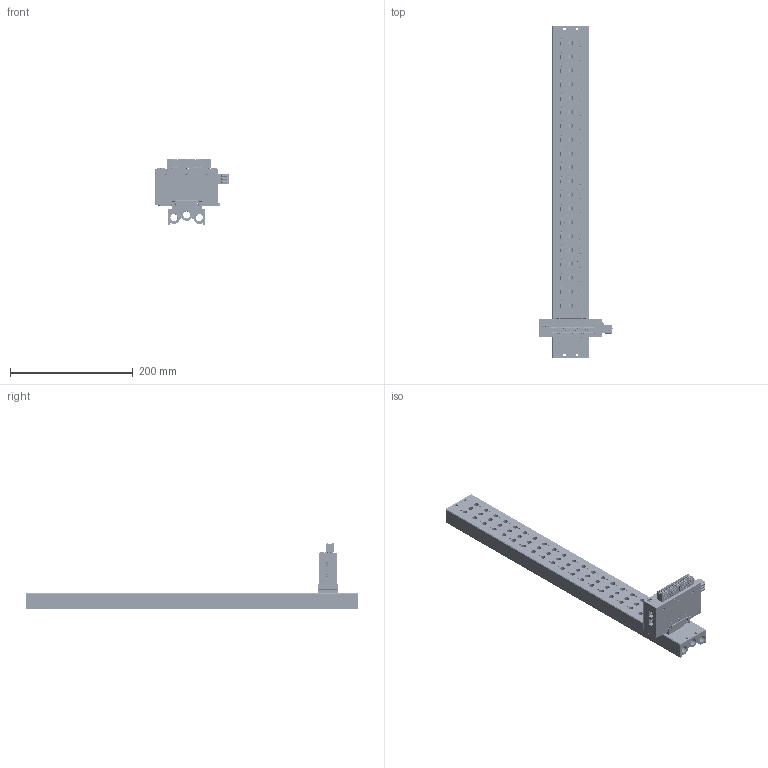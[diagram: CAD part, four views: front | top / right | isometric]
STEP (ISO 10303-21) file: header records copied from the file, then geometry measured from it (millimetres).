
FILE_DESCRIPTION(/* description */ (''),/* implementation_level */ '2;1');
FILE_NAME(/* name */ '',/* time_stamp */ '2025-10-09T16:39:53+08:00',/* author */ (''),/* organization */ (''),/* preprocessor_version */ 'ST-DEVELOPER v14',/* originating_system */ 'SIEMENS PLM Software NX 8.0',/* authorisation */ '');
FILE_SCHEMA (('AP203_CONFIGURATION_CONTROLLED_3D_DESIGN_OF_MECHANICAL_PARTS_AND_ASSEMBLIES_MIM_LF { 1 0 10303 403 2 1 2}'));
Products named in the file (1): DELL3E5857E9ud0g
Bounding box: 119.8 x 541 x 108.48 mm (x, y, z)
Volume: 684010.6 mm3; surface area: 233590.9 mm2
Topology: 2 solids, 228 shells, 9873 faces, 26114 edges, 16995 vertices
Faces by surface type: plane 6421, cylinder 2335, torus 336, bspline 328, cone 269, sphere 95, extrusion 89
Full cylindrical faces by diameter (mm): 0.18 x2, 2.5 x45, 3.05 x40, 3.3 x3, 3.5 x4, 4 x3, 4.5 x4, 6 x4, 8 x60, 11.492 x1, 11.5 x5, 11.8 x6
Entity records: 325197 total; most frequent: CARTESIAN_POINT 82487, ORIENTED_EDGE 50898, DIRECTION 48594, EDGE_CURVE 25449, VECTOR 18094, LINE 18005, VERTEX_POINT 16845, AXIS2_PLACEMENT_3D 15250
